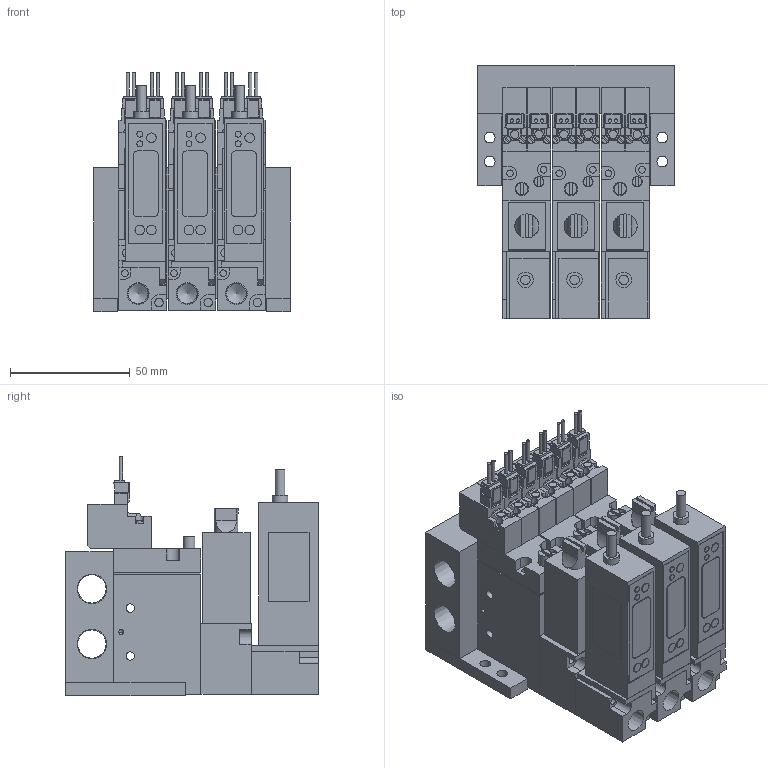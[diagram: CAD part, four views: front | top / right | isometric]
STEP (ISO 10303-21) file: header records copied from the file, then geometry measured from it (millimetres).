
FILE_DESCRIPTION(('STEP AP203'),'1');
FILE_NAME('BMPV32M2NV(R)G25BL303.stp','2025-06-17T01:03:25',(' '),(' '),'Spatial InterOp 3D',' ',' ');
FILE_SCHEMA(('CONFIG_CONTROL_DESIGN'));
Length unit declared in the file: millimetre
Products named in the file (40): BMPV32M2NV(R)G25BL303; Pressure sensor VGL; ___-3(Rc); Filter Assy; __; _____; ___ ___; MB03; MB BRACKET; ___; upper plate-A; ______; ____; VACUUM VALVE FUNCTION MPV42-A
Assembly tree (39 placements, depth 2):
  BMPV32M2NV(R)G25BL303
    Pressure sensor VGL
    ___-3(Rc)
    Filter Assy
    __
    _____
    ___ ___
    Pressure sensor VGL
    ___-3(Rc)
    Filter Assy
    __
    _____
    ___ ___
    MB03
    MB BRACKET
    MB BRACKET
    Pressure sensor VGL
    ___-3(Rc)
    Filter Assy
    __
    _____
    ___ ___
    ___
    upper plate-A
    ______
    ____
    VACUUM VALVE FUNCTION MPV42-A
    VACUUM VALVE FUNCTION MPV42-A
    ___
    upper plate-A
    ______
    ____
    VACUUM VALVE FUNCTION MPV42-A
    VACUUM VALVE FUNCTION MPV42-A
    ___
    upper plate-A
    ______
    ____
    VACUUM VALVE FUNCTION MPV42-A
    VACUUM VALVE FUNCTION MPV42-A
Bounding box: 82 x 105.5 x 99.75 mm (x, y, z)
Volume: 406377.2 mm3; surface area: 133779.2 mm2
Topology: 39 solids, 39 shells, 1169 faces, 3025 edges, 2017 vertices
Faces by surface type: plane 924, cylinder 216, cone 29
Full cylindrical faces by diameter (mm): 1.4 x12, 1.8 x6, 2 x6, 2.5 x16, 2.8 x12, 3 x12, 3.5 x34, 4 x15, 4.2 x3, 4.5 x4, 5 x3, 5.5 x3, 6.5 x9, 8.2 x3, 8.759 x3, 11.776 x2
Entity records: 36327 total; most frequent: CARTESIAN_POINT 6162, DIRECTION 5721, ORIENTED_EDGE 5542, EDGE_CURVE 2771, LINE 2215, VECTOR 2215, VERTEX_POINT 1960, AXIS2_PLACEMENT_3D 1753
